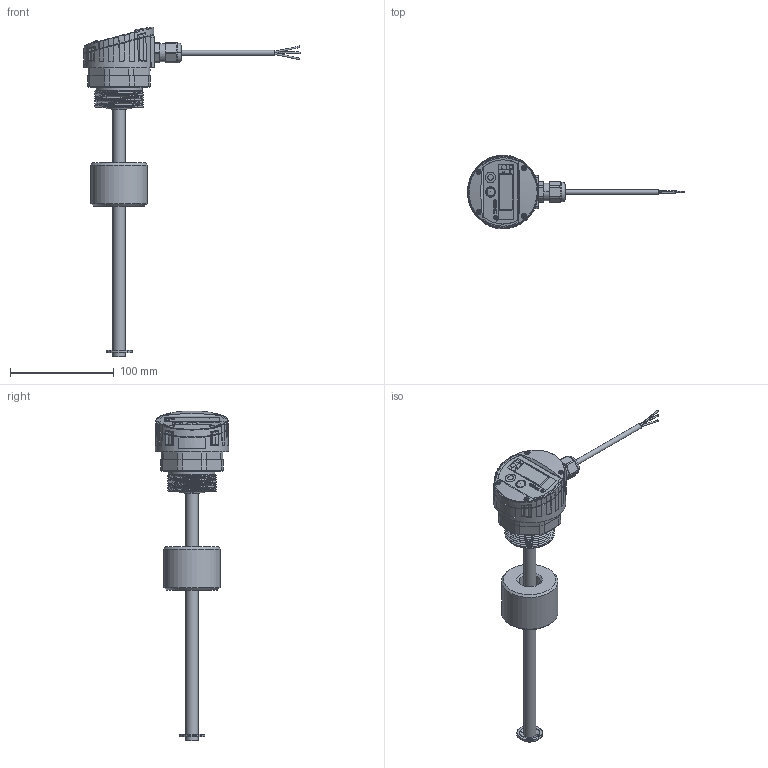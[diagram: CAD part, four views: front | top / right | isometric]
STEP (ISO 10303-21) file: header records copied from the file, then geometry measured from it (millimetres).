
FILE_DESCRIPTION(/* description */ (''),/* implementation_level */ '2;1');
FILE_NAME(/* name */ '2..3_A_1-LVL-N - mit PA12 Schwimmer.stp',/* time_stamp */ '2020-02-26T14:27:20+01:00',/* author */ (''),/* organization */ (''),/* preprocessor_version */ 'ST-DEVELOPER v16',/* originating_system */ 'SIEMENS PLM Software NX 11.0',/* authorisation */ '');
FILE_SCHEMA (('AP203_CONFIGURATION_CONTROLLED_3D_DESIGN_OF_MECHANICAL_PARTS_AND_ASSEMBLIES_MIM_LF { 1 0 10303 403 2 1 2}'));
Length unit declared in the file: millimetre
Products named in the file (1): hi2n0B9C9C60ap4u
Bounding box: 209.2 x 70.99 x 317.98 mm (x, y, z)
Volume: 188779.9 mm3; surface area: 82253.3 mm2
Topology: 25 solids, 34 shells, 1326 faces, 3466 edges, 2250 vertices
Faces by surface type: plane 560, bspline 270, cylinder 247, extrusion 108, cone 82, torus 31, sphere 28
Full cylindrical faces by diameter (mm): 1.158 x1, 2.05 x32, 2.26 x4, 2.46 x4, 2.7 x4, 4.5 x4, 5 x1, 5.5 x1, 8.64 x1, 9 x2, 10 x1, 10.2 x1, 12 x1, 14 x1, 20.6 x1, 23.7 x1, 24 x1, 24.2 x1, 24.6 x1, 25 x1, 44.4 x1, 51 x1, 51.7 x1, 52 x1, 54.4 x1, 59 x1
Entity records: 69257 total; most frequent: CARTESIAN_POINT 40670, ORIENTED_EDGE 6386, DIRECTION 4935, EDGE_CURVE 3193, VERTEX_POINT 2128, AXIS2_PLACEMENT_3D 1884, EDGE_LOOP 1489, ADVANCED_FACE 1294
